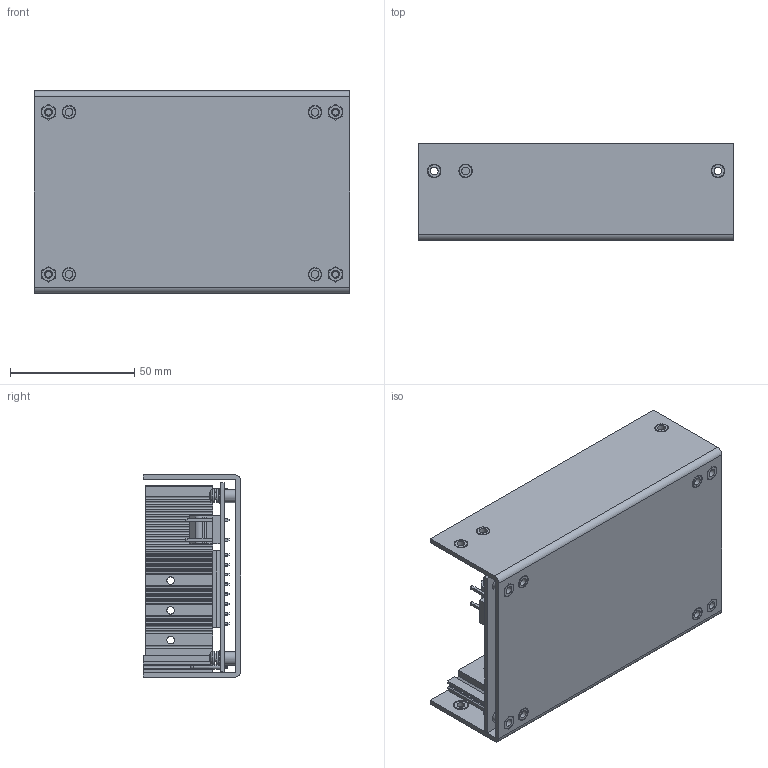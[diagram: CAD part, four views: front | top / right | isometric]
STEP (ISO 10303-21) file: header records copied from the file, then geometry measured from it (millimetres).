
FILE_DESCRIPTION (( 'STEP AP214' ), '1' );
FILE_NAME ('SDS180 -U-channel.STEP', '2013-02-08T21:12:19', ( 'dcook' ), ( '' ), 'SwSTEP 2.0', 'SolidWorks 2013', '' );
FILE_SCHEMA (( 'AUTOMOTIVE_DESIGN' ));
Length unit declared in the file: inch
Products named in the file (15): SW3dPS-DIN EN ISO 7046-1(M3X6)_M3x4-H; 09-65-2088(8PIN); 40-01529-01; 010634027; NSET3-6; NSET3-6_2; NSET3-6_3; SW3dPS-DIN EN ISO 7046-1(M3X4)_M3x4-H; 41-17447-02; M3nut1; M3X5as; 55-03019-01; 40-05309-01; SDS180 -U-channel
Assembly tree (28 placements, depth 3):
  SDS180 -U-channel
    40-05309-01
    55-03019-01
    M3X5as  x4
    M3nut1  x9
    41-17447-02
    SW3dPS-DIN EN ISO 7046-1(M3X4)_M3x4-H
    NSET3-6  x4
      NSET3-6_3
      NSET3-6_2
      NSET3-6
    010634027
    40-01529-01
    09-65-2088(8PIN)
    SW3dPS-DIN EN ISO 7046-1(M3X6)_M3x4-H
Bounding box: 127 x 39.2 x 81.6 mm (x, y, z)
Volume: 72286.2 mm3; surface area: 81083.2 mm2
Topology: 33 solids, 33 shells, 1601 faces, 4347 edges, 2880 vertices
Faces by surface type: plane 1041, cylinder 529, cone 19, bspline 12
Full cylindrical faces by diameter (mm): 1.5 x8, 1.55 x4, 1.6 x4, 1.75 x12, 2.15 x2, 2.387 x2, 2.64 x8, 2.675 x2, 3 x9, 3.15 x13, 4.4 x9, 4.8 x4, 5.4 x30, 5.5 x6, 6 x4
Entity records: 25387 total; most frequent: CARTESIAN_POINT 4855, ORIENTED_EDGE 4100, DIRECTION 4019, EDGE_CURVE 2050, LINE 1429, VECTOR 1429, VERTEX_POINT 1407, AXIS2_PLACEMENT_3D 1295
